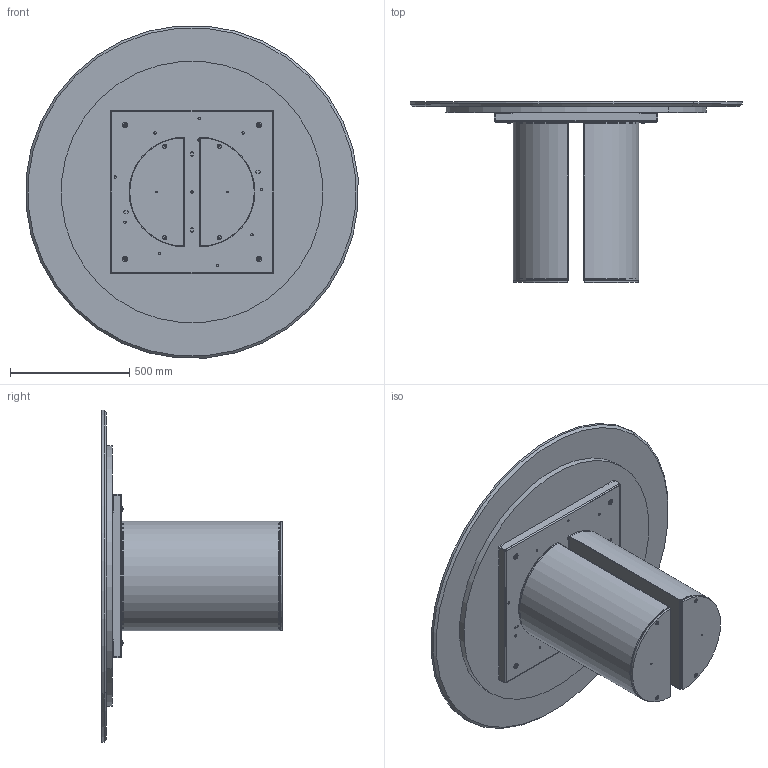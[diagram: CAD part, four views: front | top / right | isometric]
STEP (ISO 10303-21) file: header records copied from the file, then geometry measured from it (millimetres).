
FILE_DESCRIPTION (( 'STEP AP203' ), '1' );
FILE_NAME ('DR06M.STEP', '2024-08-06T12:59:55', ( '' ), ( '' ), 'SwSTEP 2.0', 'SolidWorks 2022', '' );
FILE_SCHEMA (( 'CONFIG_CONTROL_DESIGN' ));
Length unit declared in the file: millimetre
Products named in the file (15): Assieme Basamento PLAI_Basamento per tavoli; TTAV0801 TELAIO UNIVERSALE TONDO-PIASTRINA; TRU0000X-00-SOTTO PIANO D.XXXXmm_TRU00002 D.110cm ; PLA000000ZOC-01-PLAI ZOCCOLO DELLA BASE; rondella M8_8X24; TTAV0801-02-TELAIO UNIVERSALE TONDO-VASSOIO; M8xXXmm_hex_M8X60mm; M8xXXmm_M8x55mm; DR06M; M0XMXX-00-Piani Rotondi in marmo 2024_1400; TTAV0801-02-TELAIO UNIVERSALE TONDO; PLA000000BAS-00-PLAI BASE GREZZA; COLLO TELAIO UNIVERSALE TTAV0801 CON FERRAMENTA_MTG TOP LEGNO-MARMO-KING; M8xXXmm_hex_M8X20mm; M0X-00- D. piani marmo_D.1400
Assembly tree (24 placements, depth 4):
  DR06M
    Assieme Basamento PLAI_Basamento per tavoli  x2
      PLA000000BAS-00-PLAI BASE GREZZA
      PLA000000ZOC-01-PLAI ZOCCOLO DELLA BASE
      M8xXXmm_hex_M8X60mm
      M8xXXmm_hex_M8X20mm
    COLLO TELAIO UNIVERSALE TTAV0801 CON FERRAMENTA_MTG TOP LEGNO-MARMO-KING
      TTAV0801-02-TELAIO UNIVERSALE TONDO
        TTAV0801-02-TELAIO UNIVERSALE TONDO-VASSOIO
        TTAV0801 TELAIO UNIVERSALE TONDO-PIASTRINA  x4
      rondella M8_8X24  x4
      M8xXXmm_M8x55mm  x4
    M0XMXX-00-Piani Rotondi in marmo 2024_1400
      M0X-00- D. piani marmo_D.1400
      TRU0000X-00-SOTTO PIANO D.XXXXmm_TRU00002 D.110cm 
Bounding box: 1394.67 x 759 x 1394.67 mm (x, y, z)
Volume: 62172084.5 mm3; surface area: 10181807.1 mm2
Topology: 29 solids, 29 shells, 876 faces, 2168 edges, 1337 vertices
Faces by surface type: plane 408, cylinder 318, cone 94, torus 56
Entity records: 17053 total; most frequent: DIRECTION 2760, CARTESIAN_POINT 2646, ORIENTED_EDGE 2514, EDGE_CURVE 1257, AXIS2_PLACEMENT_3D 995, VERTEX_POINT 795, VECTOR 770, LINE 770
